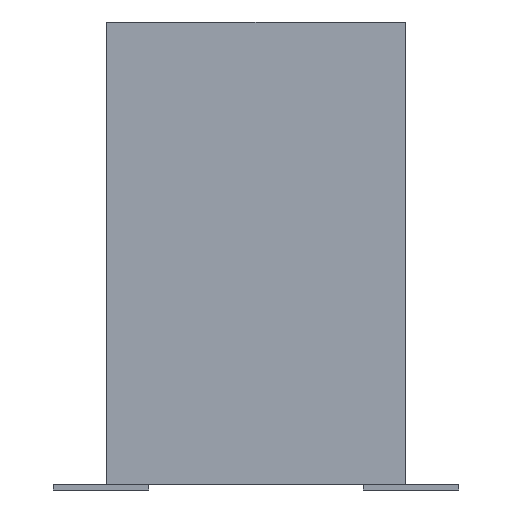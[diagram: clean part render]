
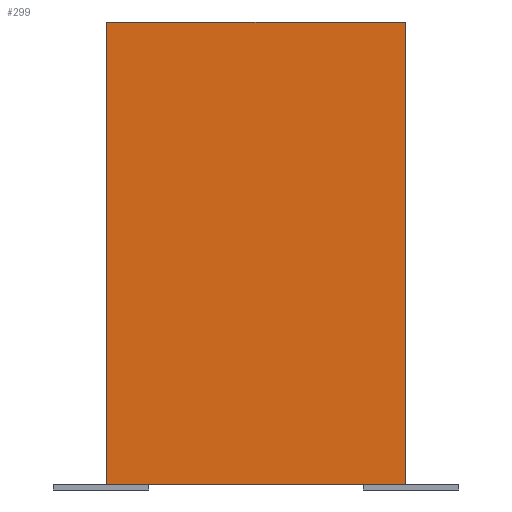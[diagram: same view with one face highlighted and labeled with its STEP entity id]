
A CAD part, left-side view. The second image highlights one B-rep face of the part: STEP entity #299.
In plain terms, the highlighted planar face has unit normal (-1, 0, 0).
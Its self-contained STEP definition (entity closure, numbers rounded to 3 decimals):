
#36 = EDGE_CURVE('',#37,#39,#41,.T.);
#37 = VERTEX_POINT('',#38);
#38 = CARTESIAN_POINT('',(-7.87,2.5,0.));
#39 = VERTEX_POINT('',#40);
#40 = CARTESIAN_POINT('',(-7.87,2.5,7.75));
#41 = SURFACE_CURVE('',#42,(#46,#58),.PCURVE_S1.);
#42 = LINE('',#43,#44);
#43 = CARTESIAN_POINT('',(-7.87,2.5,0.));
#44 = VECTOR('',#45,1.);
#45 = DIRECTION('',(0.,0.,1.));
#46 = PCURVE('',#47,#52);
#47 = PLANE('',#48);
#48 = AXIS2_PLACEMENT_3D('',#49,#50,#51);
#49 = CARTESIAN_POINT('',(-7.87,2.5,0.));
#50 = DIRECTION('',(0.,1.,0.));
#51 = DIRECTION('',(1.,0.,0.));
#52 = DEFINITIONAL_REPRESENTATION('',(#53),#57);
#53 = LINE('',#54,#55);
#54 = CARTESIAN_POINT('',(0.,0.));
#55 = VECTOR('',#56,1.);
#56 = DIRECTION('',(0.,-1.));
#57 = ( GEOMETRIC_REPRESENTATION_CONTEXT(2) 
PARAMETRIC_REPRESENTATION_CONTEXT() REPRESENTATION_CONTEXT('2D SPACE',''
  ) );
#58 = PCURVE('',#59,#64);
#59 = PLANE('',#60);
#60 = AXIS2_PLACEMENT_3D('',#61,#62,#63);
#61 = CARTESIAN_POINT('',(-7.87,-2.5,0.));
#62 = DIRECTION('',(-1.,0.,0.));
#63 = DIRECTION('',(0.,1.,0.));
#64 = DEFINITIONAL_REPRESENTATION('',(#65),#69);
#65 = LINE('',#66,#67);
#66 = CARTESIAN_POINT('',(5.,0.));
#67 = VECTOR('',#68,1.);
#68 = DIRECTION('',(0.,-1.));
#69 = ( GEOMETRIC_REPRESENTATION_CONTEXT(2) 
PARAMETRIC_REPRESENTATION_CONTEXT() REPRESENTATION_CONTEXT('2D SPACE',''
  ) );
#87 = PLANE('',#88);
#88 = AXIS2_PLACEMENT_3D('',#89,#90,#91);
#89 = CARTESIAN_POINT('',(0.,0.,7.75));
#90 = DIRECTION('',(0.,0.,-1.));
#91 = DIRECTION('',(-1.,0.,0.));
#141 = PLANE('',#142);
#142 = AXIS2_PLACEMENT_3D('',#143,#144,#145);
#143 = CARTESIAN_POINT('',(0.,0.,0.));
#144 = DIRECTION('',(0.,0.,-1.));
#145 = DIRECTION('',(-1.,0.,0.));
#196 = PLANE('',#197);
#197 = AXIS2_PLACEMENT_3D('',#198,#199,#200);
#198 = CARTESIAN_POINT('',(7.87,-2.5,0.));
#199 = DIRECTION('',(0.,-1.,0.));
#200 = DIRECTION('',(-1.,0.,0.));
#234 = VERTEX_POINT('',#235);
#235 = CARTESIAN_POINT('',(-7.87,-2.5,7.75));
#256 = EDGE_CURVE('',#257,#234,#259,.T.);
#257 = VERTEX_POINT('',#258);
#258 = CARTESIAN_POINT('',(-7.87,-2.5,0.));
#259 = SURFACE_CURVE('',#260,(#264,#271),.PCURVE_S1.);
#260 = LINE('',#261,#262);
#261 = CARTESIAN_POINT('',(-7.87,-2.5,0.));
#262 = VECTOR('',#263,1.);
#263 = DIRECTION('',(0.,0.,1.));
#264 = PCURVE('',#196,#265);
#265 = DEFINITIONAL_REPRESENTATION('',(#266),#270);
#266 = LINE('',#267,#268);
#267 = CARTESIAN_POINT('',(15.74,0.));
#268 = VECTOR('',#269,1.);
#269 = DIRECTION('',(0.,-1.));
#270 = ( GEOMETRIC_REPRESENTATION_CONTEXT(2) 
PARAMETRIC_REPRESENTATION_CONTEXT() REPRESENTATION_CONTEXT('2D SPACE',''
  ) );
#271 = PCURVE('',#59,#272);
#272 = DEFINITIONAL_REPRESENTATION('',(#273),#277);
#273 = LINE('',#274,#275);
#274 = CARTESIAN_POINT('',(0.,0.));
#275 = VECTOR('',#276,1.);
#276 = DIRECTION('',(0.,-1.));
#277 = ( GEOMETRIC_REPRESENTATION_CONTEXT(2) 
PARAMETRIC_REPRESENTATION_CONTEXT() REPRESENTATION_CONTEXT('2D SPACE',''
  ) );
#299 = ADVANCED_FACE('',(#300),#59,.T.);
#300 = FACE_BOUND('',#301,.T.);
#301 = EDGE_LOOP('',(#302,#303,#324,#325));
#302 = ORIENTED_EDGE('',*,*,#256,.T.);
#303 = ORIENTED_EDGE('',*,*,#304,.T.);
#304 = EDGE_CURVE('',#234,#39,#305,.T.);
#305 = SURFACE_CURVE('',#306,(#310,#317),.PCURVE_S1.);
#306 = LINE('',#307,#308);
#307 = CARTESIAN_POINT('',(-7.87,-2.5,7.75));
#308 = VECTOR('',#309,1.);
#309 = DIRECTION('',(0.,1.,0.));
#310 = PCURVE('',#59,#311);
#311 = DEFINITIONAL_REPRESENTATION('',(#312),#316);
#312 = LINE('',#313,#314);
#313 = CARTESIAN_POINT('',(0.,-7.75));
#314 = VECTOR('',#315,1.);
#315 = DIRECTION('',(1.,0.));
#316 = ( GEOMETRIC_REPRESENTATION_CONTEXT(2) 
PARAMETRIC_REPRESENTATION_CONTEXT() REPRESENTATION_CONTEXT('2D SPACE',''
  ) );
#317 = PCURVE('',#87,#318);
#318 = DEFINITIONAL_REPRESENTATION('',(#319),#323);
#319 = LINE('',#320,#321);
#320 = CARTESIAN_POINT('',(7.87,-2.5));
#321 = VECTOR('',#322,1.);
#322 = DIRECTION('',(0.,1.));
#323 = ( GEOMETRIC_REPRESENTATION_CONTEXT(2) 
PARAMETRIC_REPRESENTATION_CONTEXT() REPRESENTATION_CONTEXT('2D SPACE',''
  ) );
#324 = ORIENTED_EDGE('',*,*,#36,.F.);
#325 = ORIENTED_EDGE('',*,*,#326,.F.);
#326 = EDGE_CURVE('',#257,#37,#327,.T.);
#327 = SURFACE_CURVE('',#328,(#332,#339),.PCURVE_S1.);
#328 = LINE('',#329,#330);
#329 = CARTESIAN_POINT('',(-7.87,-2.5,0.));
#330 = VECTOR('',#331,1.);
#331 = DIRECTION('',(0.,1.,0.));
#332 = PCURVE('',#59,#333);
#333 = DEFINITIONAL_REPRESENTATION('',(#334),#338);
#334 = LINE('',#335,#336);
#335 = CARTESIAN_POINT('',(0.,0.));
#336 = VECTOR('',#337,1.);
#337 = DIRECTION('',(1.,0.));
#338 = ( GEOMETRIC_REPRESENTATION_CONTEXT(2) 
PARAMETRIC_REPRESENTATION_CONTEXT() REPRESENTATION_CONTEXT('2D SPACE',''
  ) );
#339 = PCURVE('',#141,#340);
#340 = DEFINITIONAL_REPRESENTATION('',(#341),#345);
#341 = LINE('',#342,#343);
#342 = CARTESIAN_POINT('',(7.87,-2.5));
#343 = VECTOR('',#344,1.);
#344 = DIRECTION('',(0.,1.));
#345 = ( GEOMETRIC_REPRESENTATION_CONTEXT(2) 
PARAMETRIC_REPRESENTATION_CONTEXT() REPRESENTATION_CONTEXT('2D SPACE',''
  ) );
